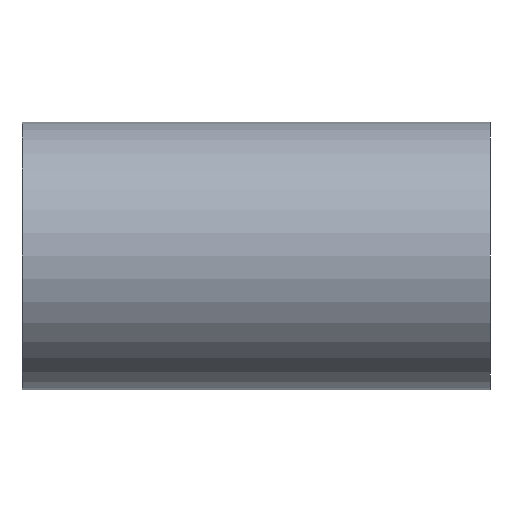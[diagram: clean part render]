
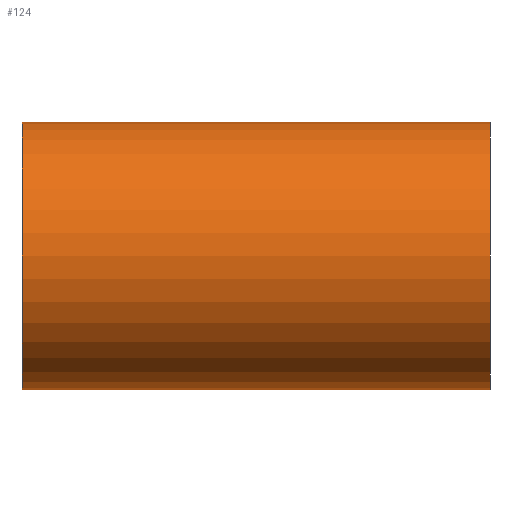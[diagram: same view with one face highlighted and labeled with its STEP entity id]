
A CAD part, left-side view. The second image highlights one B-rep face of the part: STEP entity #124.
In plain terms, the highlighted cylindrical face has radius 101.6 mm (diameter 203.2 mm), a partial arc.
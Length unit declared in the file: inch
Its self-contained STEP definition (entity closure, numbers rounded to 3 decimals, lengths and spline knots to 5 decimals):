
#6 = EDGE_CURVE ( 'NONE', #218, #381, #410, .T. ) ;
#10 = EDGE_CURVE ( 'NONE', #386, #394, #367, .T. ) ;
#13 = CARTESIAN_POINT ( 'NONE',  ( 0., 7., -4. ) ) ;
#16 = DIRECTION ( 'NONE',  ( 0., -1., 0. ) ) ;
#30 = CYLINDRICAL_SURFACE ( 'NONE', #242, 4. ) ;
#33 = ORIENTED_EDGE ( 'NONE', *, *, #10, .T. ) ;
#37 = DIRECTION ( 'NONE',  ( 0., 0., 1. ) ) ;
#42 = FACE_OUTER_BOUND ( 'NONE', #141, .T. ) ;
#43 = ORIENTED_EDGE ( 'NONE', *, *, #438, .F. ) ;
#47 = ORIENTED_EDGE ( 'NONE', *, *, #247, .F. ) ;
#58 = CARTESIAN_POINT ( 'NONE',  ( 0., 7., -4. ) ) ;
#71 = DIRECTION ( 'NONE',  ( 0., 1., 0. ) ) ;
#76 = ORIENTED_EDGE ( 'NONE', *, *, #6, .F. ) ;
#80 = LINE ( 'NONE', #413, #187 ) ;
#81 = VECTOR ( 'NONE', #160, 39.37008 ) ;
#93 = DIRECTION ( 'NONE',  ( 0., -1., 0. ) ) ;
#108 = ORIENTED_EDGE ( 'NONE', *, *, #287, .T. ) ;
#124 = ADVANCED_FACE ( 'NONE', ( #42 ), #30, .T. ) ;
#141 = EDGE_LOOP ( 'NONE', ( #43, #76, #108, #389, #33, #47 ) ) ;
#160 = DIRECTION ( 'NONE',  ( 0., -1., 0. ) ) ;
#163 = CARTESIAN_POINT ( 'NONE',  ( 0., 7., 4. ) ) ;
#187 = VECTOR ( 'NONE', #380, 39.37008 ) ;
#208 = CARTESIAN_POINT ( 'NONE',  ( 0., 7., 0. ) ) ;
#211 = DIRECTION ( 'NONE',  ( 0., -1., 0. ) ) ;
#218 = VERTEX_POINT ( 'NONE', #58 ) ;
#227 = VECTOR ( 'NONE', #16, 39.37008 ) ;
#242 = AXIS2_PLACEMENT_3D ( 'NONE', #208, #211, #257 ) ;
#247 = EDGE_CURVE ( 'NONE', #342, #394, #324, .T. ) ;
#256 = LINE ( 'NONE', #406, #81 ) ;
#257 = DIRECTION ( 'NONE',  ( 0., 0., -1. ) ) ;
#283 = DIRECTION ( 'NONE',  ( 0., 0., 1. ) ) ;
#287 = EDGE_CURVE ( 'NONE', #218, #307, #415, .T. ) ;
#303 = EDGE_CURVE ( 'NONE', #307, #386, #80, .T. ) ;
#307 = VERTEX_POINT ( 'NONE', #412 ) ;
#309 = DIRECTION ( 'NONE',  ( 0., 1., 0. ) ) ;
#313 = CARTESIAN_POINT ( 'NONE',  ( 0., -7., 0. ) ) ;
#318 = CARTESIAN_POINT ( 'NONE',  ( 0., 7., 0. ) ) ;
#320 = VECTOR ( 'NONE', #93, 39.37008 ) ;
#324 = LINE ( 'NONE', #163, #320 ) ;
#335 = CARTESIAN_POINT ( 'NONE',  ( 0., -7., 4. ) ) ;
#342 = VERTEX_POINT ( 'NONE', #439 ) ;
#358 = AXIS2_PLACEMENT_3D ( 'NONE', #313, #309, #283 ) ;
#365 = AXIS2_PLACEMENT_3D ( 'NONE', #318, #71, #37 ) ;
#367 = CIRCLE ( 'NONE', #358, 4. ) ;
#379 = CARTESIAN_POINT ( 'NONE',  ( 0., 7., 4. ) ) ;
#380 = DIRECTION ( 'NONE',  ( 0., -1., 0. ) ) ;
#381 = VERTEX_POINT ( 'NONE', #379 ) ;
#386 = VERTEX_POINT ( 'NONE', #401 ) ;
#389 = ORIENTED_EDGE ( 'NONE', *, *, #303, .T. ) ;
#394 = VERTEX_POINT ( 'NONE', #335 ) ;
#401 = CARTESIAN_POINT ( 'NONE',  ( 0., -7., -4. ) ) ;
#406 = CARTESIAN_POINT ( 'NONE',  ( 0., 7., 4. ) ) ;
#410 = CIRCLE ( 'NONE', #365, 4. ) ;
#412 = CARTESIAN_POINT ( 'NONE',  ( 0., 0., -4. ) ) ;
#413 = CARTESIAN_POINT ( 'NONE',  ( 0., 7., -4. ) ) ;
#415 = LINE ( 'NONE', #13, #227 ) ;
#438 = EDGE_CURVE ( 'NONE', #381, #342, #256, .T. ) ;
#439 = CARTESIAN_POINT ( 'NONE',  ( 0., 0., 4. ) ) ;
